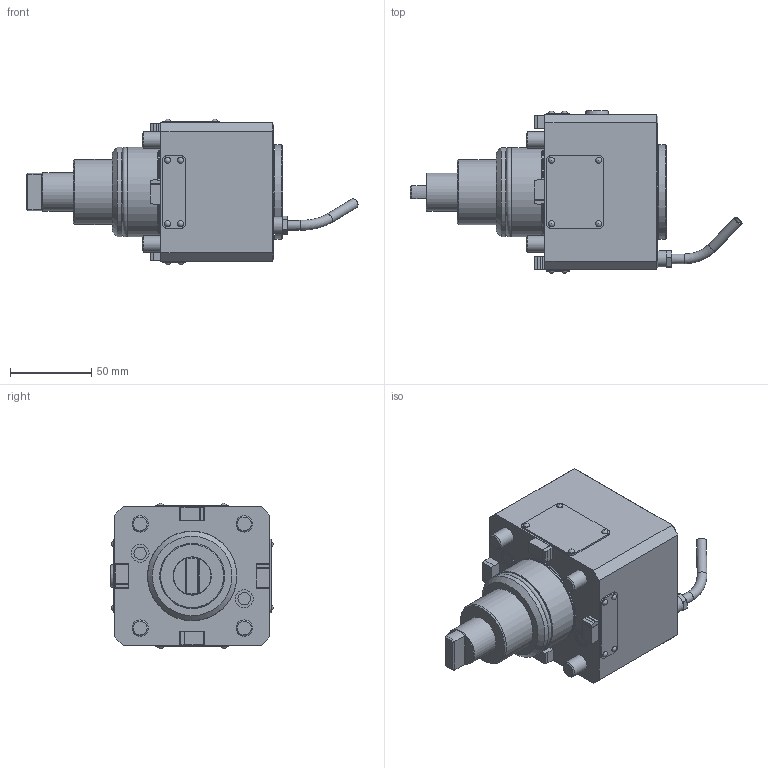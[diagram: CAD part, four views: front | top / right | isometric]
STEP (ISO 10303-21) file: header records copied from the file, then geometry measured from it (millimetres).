
FILE_DESCRIPTION(/* description */ (''),/* implementation_level */ '2;1');
FILE_NAME(/* name */ '197006-UNI',/* time_stamp */ '2022-12-07T13:34:59+01:00',/* author */ (''),/* organization */ (''),/* preprocessor_version */ 'ST-DEVELOPER v16.5',/* originating_system */ 'HiCAD 2017 2201.0 Build 268',/* authorisation */ '');
FILE_SCHEMA (('AUTOMOTIVE_DESIGN { 1 0 10303 214 1 1 1 1 }'));
Products named in the file (7): Root; Teil; Skizze
Assembly tree (6 placements, depth 3):
  Root
    Teil
      Skizze
      Skizze
      Skizze
      Skizze
      Skizze
Bounding box: 204.17 x 99.79 x 89.6 mm (x, y, z)
Volume: 677153.3 mm3; surface area: 68619.6 mm2
Topology: 13 solids, 29 shells, 848 faces, 2089 edges, 1373 vertices
Faces by surface type: plane 532, cylinder 118, bspline 86, cone 57, torus 39, sphere 16
Full cylindrical faces by diameter (mm): 2 x16, 2.2 x4, 2.3 x12, 4 x2, 6 x2, 7.65 x2, 10 x5, 11.01 x2, 16 x4, 18 x4, 23.5 x1, 31.6 x1, 40 x2, 49.9 x2, 50 x1, 54.5 x1, 54.9 x2, 58 x1
Entity records: 48281 total; most frequent: CARTESIAN_POINT 10518, PRESENTATION_STYLE_ASSIGNMENT 3859, COLOUR_RGB 3859, DRAUGHTING_PRE_DEFINED_CURVE_FONT 3858, CURVE_STYLE 3858, OVER_RIDING_STYLED_ITEM 3858, ORIENTED_EDGE 3858, DIRECTION 3643
